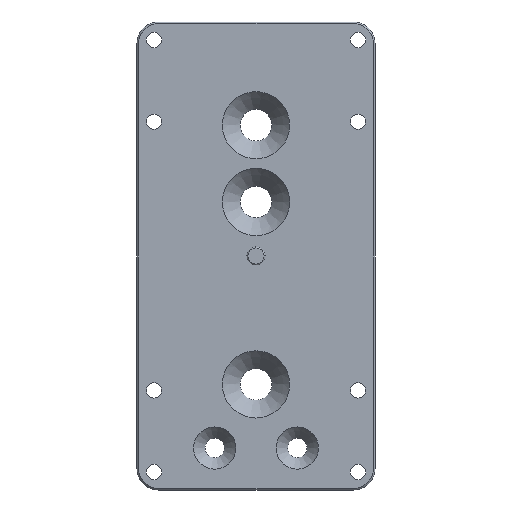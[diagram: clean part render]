
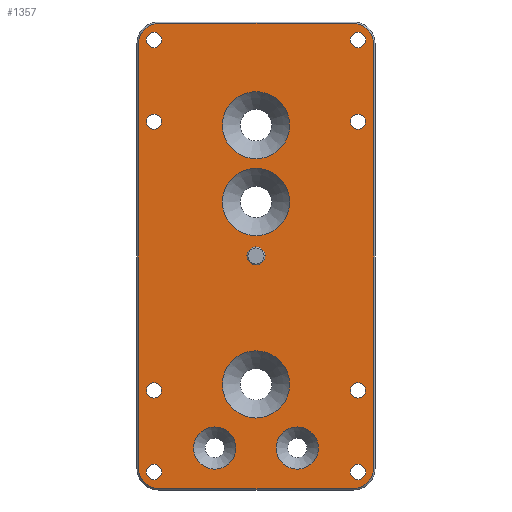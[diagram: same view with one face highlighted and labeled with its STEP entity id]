
A CAD part, front view. The second image highlights one B-rep face of the part: STEP entity #1357.
In plain terms, the highlighted planar face has unit normal (0, -1, 0).
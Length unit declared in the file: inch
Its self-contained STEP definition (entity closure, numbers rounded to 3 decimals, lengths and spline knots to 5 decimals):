
#90=CARTESIAN_POINT('',(45.13995,15.69534,-25.69582));
#91=VERTEX_POINT('',#90);
#92=CARTESIAN_POINT('',(45.0462,15.69534,-25.69582));
#93=DIRECTION('',(0.0,-1.0,0.0));
#94=DIRECTION('',(1.0,0.0,0.0));
#95=AXIS2_PLACEMENT_3D('',#92,#93,#94);
#96=CIRCLE('',#95,0.09375);
#97=EDGE_CURVE('',#91,#91,#96,.T.);
#201=CARTESIAN_POINT('',(45.3962,15.69534,-25.13332));
#202=VERTEX_POINT('',#201);
#203=CARTESIAN_POINT('',(45.0462,15.69534,-25.13332));
#204=DIRECTION('',(0.0,1.0,0.0));
#205=DIRECTION('',(1.0,0.0,0.0));
#206=AXIS2_PLACEMENT_3D('',#203,#204,#205);
#207=CIRCLE('',#206,0.35);
#208=EDGE_CURVE('',#202,#202,#207,.T.);
#249=CARTESIAN_POINT('',(45.3962,15.69534,-24.33332));
#250=VERTEX_POINT('',#249);
#251=CARTESIAN_POINT('',(45.0462,15.69534,-24.33332));
#252=DIRECTION('',(0.0,1.0,0.0));
#253=DIRECTION('',(1.0,0.0,0.0));
#254=AXIS2_PLACEMENT_3D('',#251,#252,#253);
#255=CIRCLE('',#254,0.35);
#256=EDGE_CURVE('',#250,#250,#255,.T.);
#269=CARTESIAN_POINT('',(45.3962,15.69534,-27.03332));
#270=VERTEX_POINT('',#269);
#271=CARTESIAN_POINT('',(45.0462,15.69534,-27.03332));
#272=DIRECTION('',(0.0,1.0,0.0));
#273=DIRECTION('',(1.0,0.0,0.0));
#274=AXIS2_PLACEMENT_3D('',#271,#272,#273);
#275=CIRCLE('',#274,0.35);
#276=EDGE_CURVE('',#270,#270,#275,.T.);
#488=CARTESIAN_POINT('',(46.1882,15.69534,-23.44582));
#489=VERTEX_POINT('',#488);
#490=CARTESIAN_POINT('',(46.1087,15.69534,-23.44582));
#491=DIRECTION('',(0.0,-1.0,0.0));
#492=DIRECTION('',(1.0,0.0,0.0));
#493=AXIS2_PLACEMENT_3D('',#490,#491,#492);
#494=CIRCLE('',#493,0.0795);
#495=EDGE_CURVE('',#489,#489,#494,.T.);
#516=CARTESIAN_POINT('',(46.1882,15.69534,-24.29632));
#517=VERTEX_POINT('',#516);
#518=CARTESIAN_POINT('',(46.1087,15.69534,-24.29632));
#519=DIRECTION('',(0.0,-1.0,0.0));
#520=DIRECTION('',(1.0,0.0,0.0));
#521=AXIS2_PLACEMENT_3D('',#518,#519,#520);
#522=CIRCLE('',#521,0.0795);
#523=EDGE_CURVE('',#517,#517,#522,.T.);
#544=CARTESIAN_POINT('',(46.1882,15.69534,-27.09632));
#545=VERTEX_POINT('',#544);
#546=CARTESIAN_POINT('',(46.1087,15.69534,-27.09632));
#547=DIRECTION('',(0.0,-1.0,0.0));
#548=DIRECTION('',(1.0,0.0,0.0));
#549=AXIS2_PLACEMENT_3D('',#546,#547,#548);
#550=CIRCLE('',#549,0.0795);
#551=EDGE_CURVE('',#545,#545,#550,.T.);
#572=CARTESIAN_POINT('',(46.1882,15.69534,-27.94582));
#573=VERTEX_POINT('',#572);
#574=CARTESIAN_POINT('',(46.1087,15.69534,-27.94582));
#575=DIRECTION('',(0.0,-1.0,0.0));
#576=DIRECTION('',(1.0,0.0,0.0));
#577=AXIS2_PLACEMENT_3D('',#574,#575,#576);
#578=CIRCLE('',#577,0.0795);
#579=EDGE_CURVE('',#573,#573,#578,.T.);
#600=CARTESIAN_POINT('',(44.0632,15.69534,-27.94582));
#601=VERTEX_POINT('',#600);
#602=CARTESIAN_POINT('',(43.9837,15.69534,-27.94582));
#603=DIRECTION('',(0.0,-1.0,0.0));
#604=DIRECTION('',(1.0,0.0,0.0));
#605=AXIS2_PLACEMENT_3D('',#602,#603,#604);
#606=CIRCLE('',#605,0.0795);
#607=EDGE_CURVE('',#601,#601,#606,.T.);
#628=CARTESIAN_POINT('',(44.0632,15.69534,-27.09632));
#629=VERTEX_POINT('',#628);
#630=CARTESIAN_POINT('',(43.9837,15.69534,-27.09632));
#631=DIRECTION('',(0.0,-1.0,0.0));
#632=DIRECTION('',(1.0,0.0,0.0));
#633=AXIS2_PLACEMENT_3D('',#630,#631,#632);
#634=CIRCLE('',#633,0.0795);
#635=EDGE_CURVE('',#629,#629,#634,.T.);
#656=CARTESIAN_POINT('',(44.0632,15.69534,-24.29632));
#657=VERTEX_POINT('',#656);
#658=CARTESIAN_POINT('',(43.9837,15.69534,-24.29632));
#659=DIRECTION('',(0.0,-1.0,0.0));
#660=DIRECTION('',(1.0,0.0,0.0));
#661=AXIS2_PLACEMENT_3D('',#658,#659,#660);
#662=CIRCLE('',#661,0.0795);
#663=EDGE_CURVE('',#657,#657,#662,.T.);
#684=CARTESIAN_POINT('',(44.0632,15.69534,-23.44582));
#685=VERTEX_POINT('',#684);
#686=CARTESIAN_POINT('',(43.9837,15.69534,-23.44582));
#687=DIRECTION('',(0.0,-1.0,0.0));
#688=DIRECTION('',(1.0,0.0,0.0));
#689=AXIS2_PLACEMENT_3D('',#686,#687,#688);
#690=CIRCLE('',#689,0.0795);
#691=EDGE_CURVE('',#685,#685,#690,.T.);
#1013=CARTESIAN_POINT('',(43.8212,15.69534,-27.90832));
#1014=VERTEX_POINT('',#1013);
#1022=CARTESIAN_POINT('',(44.0312,15.69534,-28.11832));
#1023=VERTEX_POINT('',#1022);
#1030=CARTESIAN_POINT('',(44.0312,15.69534,-27.90832));
#1031=DIRECTION('',(0.0,1.0,0.0));
#1032=DIRECTION('',(-1.0,0.0,0.0));
#1033=AXIS2_PLACEMENT_3D('',#1030,#1031,#1032);
#1034=CIRCLE('',#1033,0.21);
#1035=EDGE_CURVE('',#1014,#1023,#1034,.F.);
#1047=CARTESIAN_POINT('',(46.0612,15.69534,-28.11832));
#1048=VERTEX_POINT('',#1047);
#1055=CARTESIAN_POINT('',(44.0312,15.69534,-28.11832));
#1056=DIRECTION('',(1.0,0.0,0.0));
#1057=VECTOR('',#1056,2.03);
#1058=LINE('',#1055,#1057);
#1059=EDGE_CURVE('',#1023,#1048,#1058,.T.);
#1070=CARTESIAN_POINT('',(43.8212,15.69534,-23.48332));
#1071=VERTEX_POINT('',#1070);
#1072=CARTESIAN_POINT('',(43.8212,15.69534,-23.48332));
#1073=DIRECTION('',(0.0,0.0,-1.0));
#1074=VECTOR('',#1073,4.425);
#1075=LINE('',#1072,#1074);
#1076=EDGE_CURVE('',#1071,#1014,#1075,.T.);
#1095=CARTESIAN_POINT('',(46.2712,15.69534,-27.90832));
#1096=VERTEX_POINT('',#1095);
#1103=CARTESIAN_POINT('',(46.0612,15.69534,-27.90832));
#1104=DIRECTION('',(0.0,1.0,0.0));
#1105=DIRECTION('',(-1.0,0.0,0.0));
#1106=AXIS2_PLACEMENT_3D('',#1103,#1104,#1105);
#1107=CIRCLE('',#1106,0.21);
#1108=EDGE_CURVE('',#1048,#1096,#1107,.F.);
#1119=CARTESIAN_POINT('',(44.0312,15.69534,-23.27332));
#1120=VERTEX_POINT('',#1119);
#1121=CARTESIAN_POINT('',(44.0312,15.69534,-23.48332));
#1122=DIRECTION('',(0.0,1.0,0.0));
#1123=DIRECTION('',(-1.0,0.0,0.0));
#1124=AXIS2_PLACEMENT_3D('',#1121,#1122,#1123);
#1125=CIRCLE('',#1124,0.21);
#1126=EDGE_CURVE('',#1120,#1071,#1125,.F.);
#1145=CARTESIAN_POINT('',(46.2712,15.69534,-23.48332));
#1146=VERTEX_POINT('',#1145);
#1153=CARTESIAN_POINT('',(46.2712,15.69534,-27.90832));
#1154=DIRECTION('',(0.0,0.0,1.0));
#1155=VECTOR('',#1154,4.425);
#1156=LINE('',#1153,#1155);
#1157=EDGE_CURVE('',#1096,#1146,#1156,.T.);
#1168=CARTESIAN_POINT('',(46.0612,15.69534,-23.27332));
#1169=VERTEX_POINT('',#1168);
#1170=CARTESIAN_POINT('',(46.0612,15.69534,-23.27332));
#1171=DIRECTION('',(-1.0,0.0,0.0));
#1172=VECTOR('',#1171,2.03);
#1173=LINE('',#1170,#1172);
#1174=EDGE_CURVE('',#1169,#1120,#1173,.T.);
#1194=CARTESIAN_POINT('',(46.0612,15.69534,-23.48332));
#1195=DIRECTION('',(0.0,1.0,0.0));
#1196=DIRECTION('',(-1.0,0.0,0.0));
#1197=AXIS2_PLACEMENT_3D('',#1194,#1195,#1196);
#1198=CIRCLE('',#1197,0.21);
#1199=EDGE_CURVE('',#1146,#1169,#1198,.F.);
#1265=CARTESIAN_POINT('',(44.8362,15.69534,-27.69632));
#1266=VERTEX_POINT('',#1265);
#1267=CARTESIAN_POINT('',(44.6162,15.69534,-27.69632));
#1268=DIRECTION('',(0.0,-1.0,0.0));
#1269=DIRECTION('',(1.0,0.0,0.0));
#1270=AXIS2_PLACEMENT_3D('',#1267,#1268,#1269);
#1271=CIRCLE('',#1270,0.22);
#1272=EDGE_CURVE('',#1266,#1266,#1271,.T.);
#1285=CARTESIAN_POINT('',(45.6962,15.69534,-27.69632));
#1286=VERTEX_POINT('',#1285);
#1287=CARTESIAN_POINT('',(45.4762,15.69534,-27.69632));
#1288=DIRECTION('',(0.0,-1.0,0.0));
#1289=DIRECTION('',(1.0,0.0,0.0));
#1290=AXIS2_PLACEMENT_3D('',#1287,#1288,#1289);
#1291=CIRCLE('',#1290,0.22);
#1292=EDGE_CURVE('',#1286,#1286,#1291,.T.);
#1300=CARTESIAN_POINT('',(45.0462,15.69534,-25.11832));
#1301=DIRECTION('',(0.0,-1.0,0.0));
#1302=DIRECTION('',(-1.0,0.0,0.0));
#1303=AXIS2_PLACEMENT_3D('',#1300,#1301,#1302);
#1304=PLANE('',#1303);
#1305=ORIENTED_EDGE('',*,*,#1157,.T.);
#1306=ORIENTED_EDGE('',*,*,#1199,.T.);
#1307=ORIENTED_EDGE('',*,*,#1174,.T.);
#1308=ORIENTED_EDGE('',*,*,#1126,.T.);
#1309=ORIENTED_EDGE('',*,*,#1076,.T.);
#1310=ORIENTED_EDGE('',*,*,#1035,.T.);
#1311=ORIENTED_EDGE('',*,*,#1059,.T.);
#1312=ORIENTED_EDGE('',*,*,#1108,.T.);
#1313=EDGE_LOOP('',(#1305,#1306,#1307,#1308,#1309,#1310,#1311,#1312));
#1314=FACE_OUTER_BOUND('',#1313,.T.);
#1315=ORIENTED_EDGE('',*,*,#208,.T.);
#1316=EDGE_LOOP('',(#1315));
#1317=FACE_BOUND('',#1316,.T.);
#1318=ORIENTED_EDGE('',*,*,#256,.T.);
#1319=EDGE_LOOP('',(#1318));
#1320=FACE_BOUND('',#1319,.T.);
#1321=ORIENTED_EDGE('',*,*,#276,.T.);
#1322=EDGE_LOOP('',(#1321));
#1323=FACE_BOUND('',#1322,.T.);
#1324=ORIENTED_EDGE('',*,*,#1272,.F.);
#1325=EDGE_LOOP('',(#1324));
#1326=FACE_BOUND('',#1325,.T.);
#1327=ORIENTED_EDGE('',*,*,#1292,.F.);
#1328=EDGE_LOOP('',(#1327));
#1329=FACE_BOUND('',#1328,.T.);
#1330=ORIENTED_EDGE('',*,*,#495,.F.);
#1331=EDGE_LOOP('',(#1330));
#1332=FACE_BOUND('',#1331,.T.);
#1333=ORIENTED_EDGE('',*,*,#523,.F.);
#1334=EDGE_LOOP('',(#1333));
#1335=FACE_BOUND('',#1334,.T.);
#1336=ORIENTED_EDGE('',*,*,#551,.F.);
#1337=EDGE_LOOP('',(#1336));
#1338=FACE_BOUND('',#1337,.T.);
#1339=ORIENTED_EDGE('',*,*,#579,.F.);
#1340=EDGE_LOOP('',(#1339));
#1341=FACE_BOUND('',#1340,.T.);
#1342=ORIENTED_EDGE('',*,*,#607,.F.);
#1343=EDGE_LOOP('',(#1342));
#1344=FACE_BOUND('',#1343,.T.);
#1345=ORIENTED_EDGE('',*,*,#635,.F.);
#1346=EDGE_LOOP('',(#1345));
#1347=FACE_BOUND('',#1346,.T.);
#1348=ORIENTED_EDGE('',*,*,#663,.F.);
#1349=EDGE_LOOP('',(#1348));
#1350=FACE_BOUND('',#1349,.T.);
#1351=ORIENTED_EDGE('',*,*,#691,.F.);
#1352=EDGE_LOOP('',(#1351));
#1353=FACE_BOUND('',#1352,.T.);
#1354=ORIENTED_EDGE('',*,*,#97,.F.);
#1355=EDGE_LOOP('',(#1354));
#1356=FACE_BOUND('',#1355,.T.);
#1357=ADVANCED_FACE('',(#1314,#1317,#1320,#1323,#1326,#1329,#1332,#1335,#1338,#1341,#1344,#1347,#1350,#1353,#1356),#1304,.T.);
